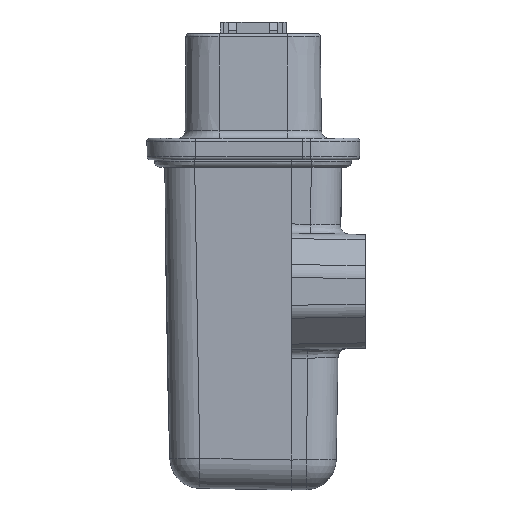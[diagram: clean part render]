
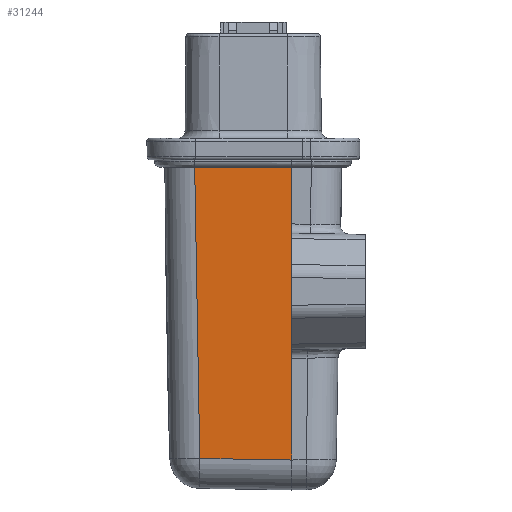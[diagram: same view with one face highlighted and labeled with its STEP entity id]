
A CAD part, left-side view. The second image highlights one B-rep face of the part: STEP entity #31244.
In plain terms, the highlighted planar face has unit normal (-1, 0.018, -0.017).
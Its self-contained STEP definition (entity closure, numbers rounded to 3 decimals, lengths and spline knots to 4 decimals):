
#2141=PLANE('',#32949);
#3371=FACE_OUTER_BOUND('',#5229,.T.);
#5229=EDGE_LOOP('',(#24138,#24139,#24140,#24141,#24142,#24143));
#7913=LINE('',#54044,#10688);
#8008=LINE('',#54978,#10783);
#8009=LINE('',#54982,#10784);
#8010=LINE('',#54984,#10785);
#8011=LINE('',#54986,#10786);
#8012=LINE('',#54987,#10787);
#10688=VECTOR('',#37587,0.3937);
#10783=VECTOR('',#37870,0.3937);
#10784=VECTOR('',#37875,0.3937);
#10785=VECTOR('',#37876,0.3937);
#10786=VECTOR('',#37877,0.3937);
#10787=VECTOR('',#37878,0.3937);
#13871=VERTEX_POINT('',#53695);
#13882=VERTEX_POINT('',#53851);
#13920=VERTEX_POINT('',#54040);
#13922=VERTEX_POINT('',#54043);
#14061=VERTEX_POINT('',#54983);
#14062=VERTEX_POINT('',#54985);
#17396=EDGE_CURVE('',#13922,#13920,#7913,.T.);
#17581=EDGE_CURVE('',#13882,#13871,#8008,.T.);
#17583=EDGE_CURVE('',#13871,#13922,#8009,.T.);
#17584=EDGE_CURVE('',#14061,#13920,#8010,.T.);
#17585=EDGE_CURVE('',#14062,#14061,#8011,.T.);
#17586=EDGE_CURVE('',#14062,#13882,#8012,.T.);
#24138=ORIENTED_EDGE('',*,*,#17581,.T.);
#24139=ORIENTED_EDGE('',*,*,#17583,.T.);
#24140=ORIENTED_EDGE('',*,*,#17396,.T.);
#24141=ORIENTED_EDGE('',*,*,#17584,.F.);
#24142=ORIENTED_EDGE('',*,*,#17585,.F.);
#24143=ORIENTED_EDGE('',*,*,#17586,.T.);
#31244=ADVANCED_FACE('',(#3371),#2141,.T.);
#32949=AXIS2_PLACEMENT_3D('',#54981,#37873,#37874);
#37587=DIRECTION('',(0.017,1.,0.));
#37870=DIRECTION('',(-0.017,0.,1.));
#37873=DIRECTION('center_axis',(-1.,0.017,-0.017));
#37874=DIRECTION('ref_axis',(0.017,1.,0.));
#37875=DIRECTION('',(-0.017,0.,1.));
#37876=DIRECTION('',(-0.017,0.017,1.));
#37877=DIRECTION('',(0.017,1.,0.017));
#37878=DIRECTION('',(-0.017,0.,1.));
#53695=CARTESIAN_POINT('',(-0.7812,0.04,0.5954));
#53851=CARTESIAN_POINT('',(-0.7661,0.04,-0.2727));
#54040=CARTESIAN_POINT('',(-0.7767,0.6663,0.9605));
#54043=CARTESIAN_POINT('',(-0.7876,0.04,0.9605));
#54044=CARTESIAN_POINT('',(-0.7781,0.5818,0.9605));
#54978=CARTESIAN_POINT('',(-0.7898,0.04,1.0902));
#54981=CARTESIAN_POINT('Origin',(-0.7756,0.862,1.0986));
#54982=CARTESIAN_POINT('',(-0.7898,0.04,1.0902));
#54983=CARTESIAN_POINT('',(-0.7444,0.6336,-0.9176));
#54984=CARTESIAN_POINT('',(-0.7788,0.6686,1.0883));
#54985=CARTESIAN_POINT('',(-0.7546,0.04,-0.9279));
#54986=CARTESIAN_POINT('',(-0.7451,0.598,-0.9182));
#54987=CARTESIAN_POINT('',(-0.7898,0.04,1.0902));
